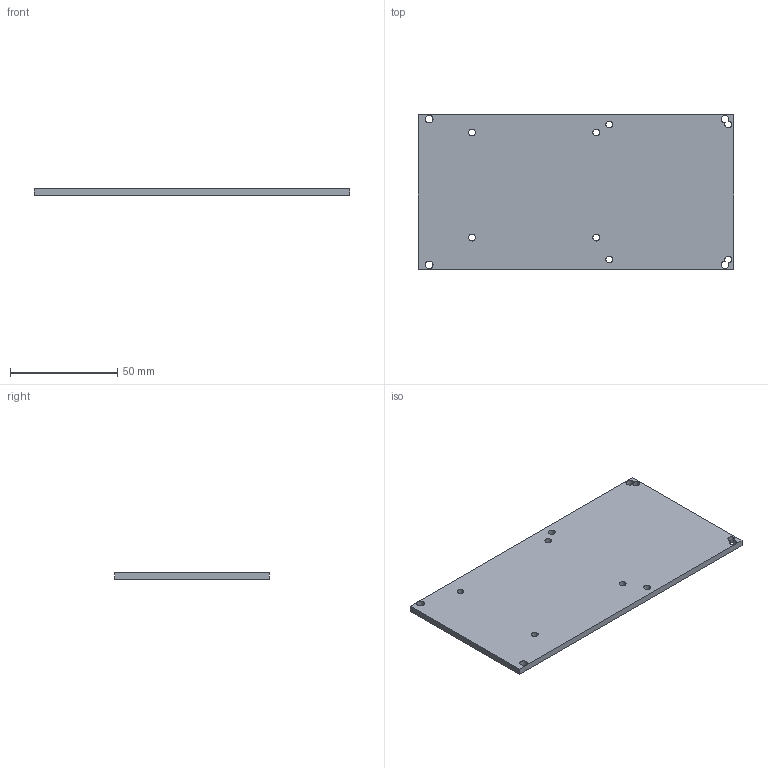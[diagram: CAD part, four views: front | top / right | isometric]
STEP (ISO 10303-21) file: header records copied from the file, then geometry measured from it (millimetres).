
FILE_DESCRIPTION(('FreeCAD Model'),'2;1');
FILE_NAME('Open CASCADE Shape Model','2026-09-11T14:18:25',( '' ),( '' ),'Open CASCADE STEP processor 7.8','FreeCAD','Unknown');
FILE_SCHEMA(('AUTOMOTIVE_DESIGN { 1 0 10303 214 1 1 1 1 }'));
Length unit declared in the file: millimetre
Products named in the file (1): Open CASCADE STEP translator 7.8 6
Bounding box: 147 x 72 x 3 mm (x, y, z)
Volume: 31440.3 mm3; surface area: 22629.2 mm2
Topology: 1 solids, 1 shells, 18 faces, 54 edges, 38 vertices
Faces by surface type: cylinder 12, plane 6
Full cylindrical faces by diameter (mm): 3.2 x6, 3.6 x2
Entity records: 686 total; most frequent: DIRECTION 122, CARTESIAN_POINT 111, ORIENTED_EDGE 108, EDGE_CURVE 54, AXIS2_PLACEMENT_3D 49, FACE_BOUND 38, EDGE_LOOP 38, VERTEX_POINT 38
